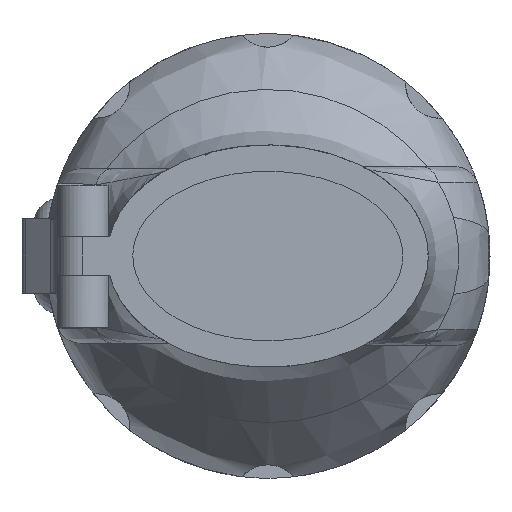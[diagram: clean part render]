
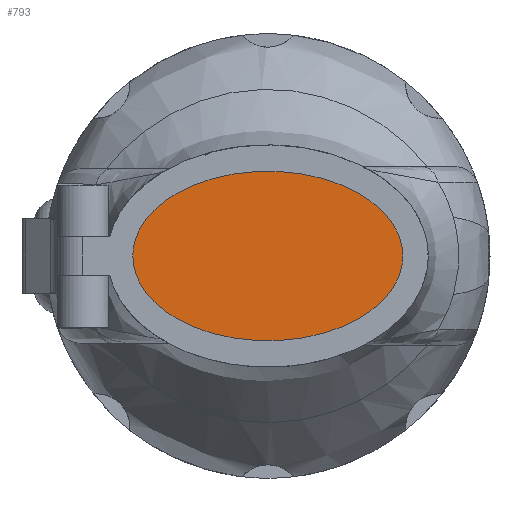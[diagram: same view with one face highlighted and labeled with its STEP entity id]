
A CAD part, left-side view. The second image highlights one B-rep face of the part: STEP entity #793.
In plain terms, the highlighted planar face has unit normal (-1, 0, 0) as drawn and (0, -1, 0) by its records, which use the part's own axes.
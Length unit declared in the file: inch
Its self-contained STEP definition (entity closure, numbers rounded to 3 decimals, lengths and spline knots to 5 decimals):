
#370 = CARTESIAN_POINT ( 'NONE',  ( 0.54653, 0.1, 0. ) ) ;
#793 = ADVANCED_FACE ( 'NONE', ( #4566 ), #7581, .T. ) ;
#1599 = CARTESIAN_POINT ( 'NONE',  ( -0.54653, 0.1, 0.68685 ) ) ;
#1910 = ORIENTED_EDGE ( 'NONE', *, *, #2405, .T. ) ;
#2405 = EDGE_CURVE ( 'NONE', #8869, #11059, #4621, .T. ) ;
#2674 = CARTESIAN_POINT ( 'NONE',  ( -0.54653, 0.1, -0.68685 ) ) ;
#4027 = EDGE_LOOP ( 'NONE', ( #1910, #5688 ) ) ;
#4139 = CARTESIAN_POINT ( 'NONE',  ( 0., 0.1, 0. ) ) ;
#4431 = CARTESIAN_POINT ( 'NONE',  ( 0.54653, 0.1, -0.68685 ) ) ;
#4566 = FACE_OUTER_BOUND ( 'NONE', #4027, .T. ) ;
#4621 =( BOUNDED_CURVE ( )  B_SPLINE_CURVE ( 3, ( #8487, #6784, #1599, #7637 ),
 .UNSPECIFIED., .F., .T. ) 
 B_SPLINE_CURVE_WITH_KNOTS ( ( 4, 4 ),
 ( 0., 3.14159 ),
 .UNSPECIFIED. ) 
 CURVE ( )  GEOMETRIC_REPRESENTATION_ITEM ( )  RATIONAL_B_SPLINE_CURVE ( ( 1., 0.333, 0.333, 1. ) ) 
 REPRESENTATION_ITEM ( '' )  );
#5017 = DIRECTION ( 'NONE',  ( 0., -1., 0. ) ) ;
#5688 = ORIENTED_EDGE ( 'NONE', *, *, #9898, .T. ) ;
#6342 = AXIS2_PLACEMENT_3D ( 'NONE', #4139, #5017, #11054 ) ;
#6784 = CARTESIAN_POINT ( 'NONE',  ( 0.54653, 0.1, 0.68685 ) ) ;
#7581 = PLANE ( 'NONE',  #6342 ) ;
#7637 = CARTESIAN_POINT ( 'NONE',  ( -0.54653, 0.1, 0. ) ) ;
#8487 = CARTESIAN_POINT ( 'NONE',  ( 0.54653, 0.1, 0. ) ) ;
#8732 = CARTESIAN_POINT ( 'NONE',  ( -0.54653, 0.1, 0. ) ) ;
#8869 = VERTEX_POINT ( 'NONE', #370 ) ;
#9425 = CARTESIAN_POINT ( 'NONE',  ( -0.54653, 0.1, 0. ) ) ;
#9898 = EDGE_CURVE ( 'NONE', #11059, #8869, #10350, .T. ) ;
#10350 =( BOUNDED_CURVE ( )  B_SPLINE_CURVE ( 3, ( #8732, #2674, #4431, #10473 ),
 .UNSPECIFIED., .F., .T. ) 
 B_SPLINE_CURVE_WITH_KNOTS ( ( 4, 4 ),
 ( 3.14159, 6.28319 ),
 .UNSPECIFIED. ) 
 CURVE ( )  GEOMETRIC_REPRESENTATION_ITEM ( )  RATIONAL_B_SPLINE_CURVE ( ( 1., 0.333, 0.333, 1. ) ) 
 REPRESENTATION_ITEM ( '' )  );
#10473 = CARTESIAN_POINT ( 'NONE',  ( 0.54653, 0.1, 0. ) ) ;
#11054 = DIRECTION ( 'NONE',  ( 0., 0., -1. ) ) ;
#11059 = VERTEX_POINT ( 'NONE', #9425 ) ;
